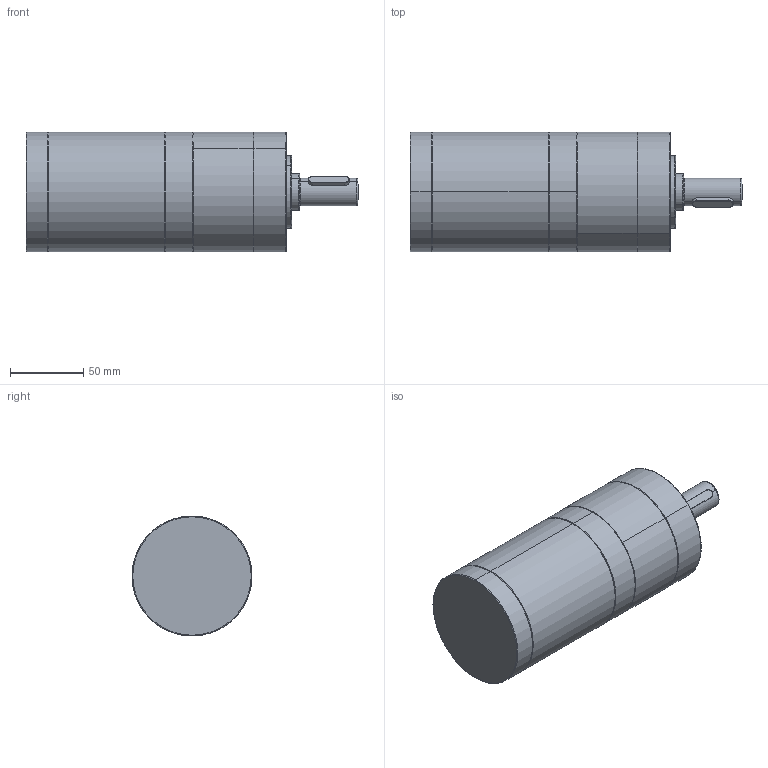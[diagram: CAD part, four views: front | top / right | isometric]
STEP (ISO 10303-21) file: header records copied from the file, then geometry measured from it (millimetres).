
FILE_DESCRIPTION (( 'STEP AP203' ), '1' );
FILE_NAME ('Z82BLDPN200W熬厒掀珨撰淕儂.STEP', '2021-07-16T05:12:38', ( '' ), ( '' ), 'SwSTEP 2.0', 'SolidWorks 2021', '' );
FILE_SCHEMA (( 'CONFIG_CONTROL_DESIGN' ));
Length unit declared in the file: millimetre
Products named in the file (3): Z82BLDPN200W熬厒掀珨撰淕儂; 82PN珨撰; 82
Assembly tree (2 placements, depth 2):
  Z82BLDPN200W熬厒掀珨撰淕儂
    82
    82PN珨撰
Bounding box: 227.2 x 82 x 82 mm (x, y, z)
Volume: 947453.7 mm3; surface area: 74094.9 mm2
Topology: 2 solids, 2 shells, 155 faces, 341 edges, 203 vertices
Faces by surface type: cylinder 50, plane 49, cone 32, bspline 20, torus 4
Entity records: 4744 total; most frequent: CARTESIAN_POINT 1114, DIRECTION 733, ORIENTED_EDGE 662, EDGE_CURVE 331, AXIS2_PLACEMENT_3D 286, VERTEX_POINT 203, EDGE_LOOP 178, LINE 161
